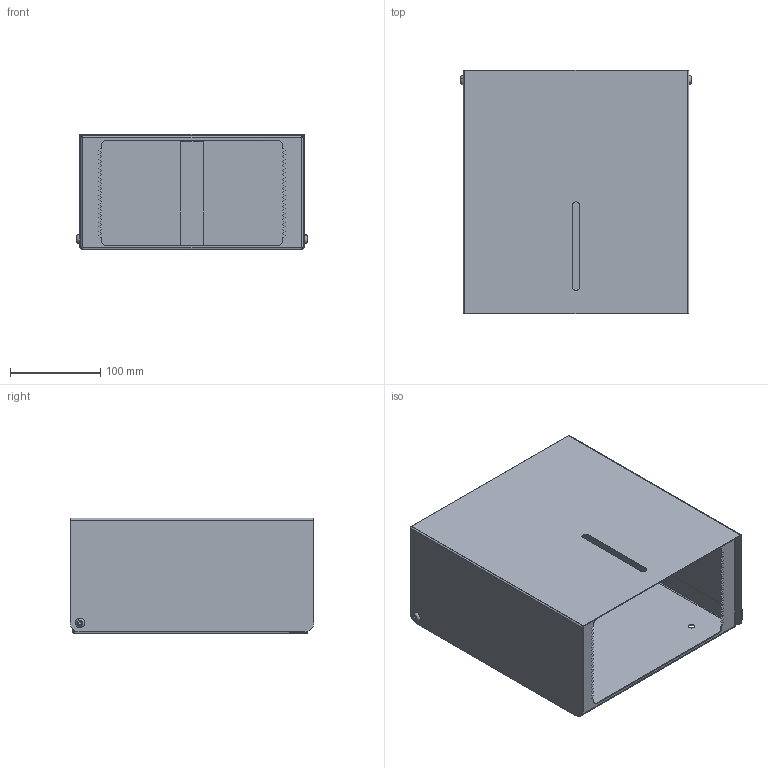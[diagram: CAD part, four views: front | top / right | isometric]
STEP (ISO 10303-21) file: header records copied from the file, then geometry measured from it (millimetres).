
FILE_DESCRIPTION (( 'STEP AP214' ), '1' );
FILE_NAME ('Podajnik na papier toaletowy LAMARRO.STEP', '2023-09-01T11:05:41', ( '' ), ( '' ), 'SwSTEP 2.0', 'SolidWorks 2021', '' );
FILE_SCHEMA (( 'AUTOMOTIVE_DESIGN' ));
Length unit declared in the file: millimetre
Products named in the file (7): 09-003-0250-W-01-02; Podajnik na papier toaletowy LAMARRO; 09-003-0250-W-01-01; 09-003-0250-W-01-00; nut_iso_10511-m6-05; screw_iso_7380-m6x10-12_9; 09-003-0250-W-00-01
Assembly tree (8 placements, depth 3):
  Podajnik na papier toaletowy LAMARRO
    09-003-0250-W-01-00
      09-003-0250-W-01-01
      09-003-0250-W-01-02
    09-003-0250-W-00-01
    screw_iso_7380-m6x10-12_9  x2
    nut_iso_10511-m6-05  x2
Bounding box: 256.6 x 270 x 128 mm (x, y, z)
Volume: 260512.7 mm3; surface area: 516787.5 mm2
Topology: 7 solids, 7 shells, 324 faces, 826 edges, 516 vertices
Faces by surface type: plane 205, cylinder 73, cone 30, torus 12, bspline 4
Entity records: 9193 total; most frequent: CARTESIAN_POINT 2076, ORIENTED_EDGE 1428, DIRECTION 1403, EDGE_CURVE 714, VECTOR 517, LINE 517, VERTEX_POINT 446, AXIS2_PLACEMENT_3D 443
